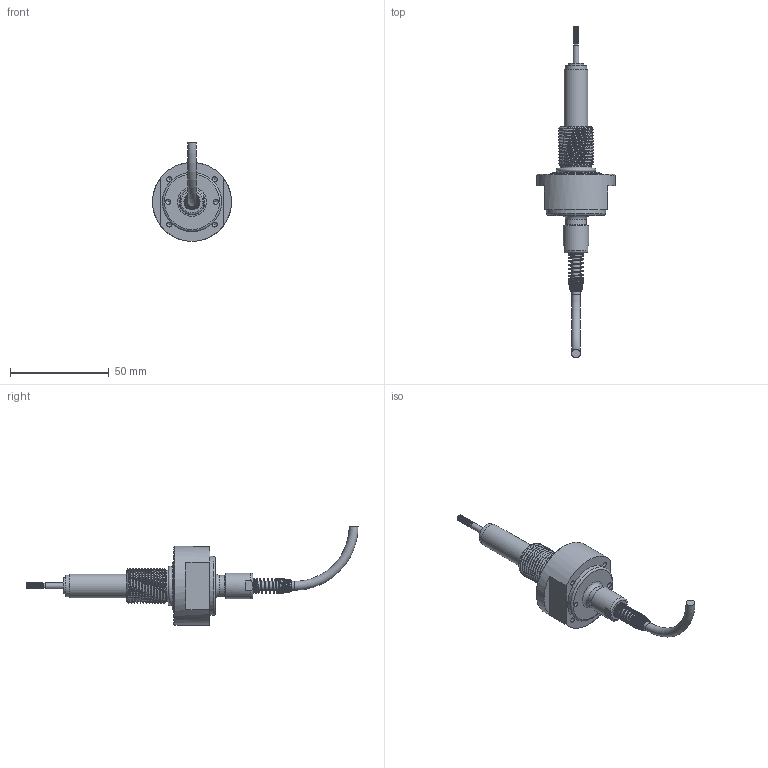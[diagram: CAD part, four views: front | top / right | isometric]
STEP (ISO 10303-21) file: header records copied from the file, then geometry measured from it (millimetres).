
FILE_DESCRIPTION( ( 'STEP AP214' ), '1' );
FILE_NAME( 'N:/Engineering/CAD_Solid/LVDT/HYD/Kunden-3D-Modell/SM5-HYD-18-K.stp', '2011-12-14T13:36:15', ( ' ' ), ( ' ' ), 'XStep 1.0', ' ', ' ' );
FILE_SCHEMA( ( 'CONFIG_CONTROL_DESIGN) ( )' ) );
Length unit declared in the file: metre
Products named in the file (12): 1; 2; 3; 4; 5; 6; 7; 8; 9; 10; 11; 12
Bounding box: 40 x 168.25 x 50 mm (x, y, z)
Volume: 1245.2 mm3; surface area: 14629.5 mm2
Topology: 2 solids, 78 shells, 82 faces, 300 edges, 248 vertices
Faces by surface type: cylinder 24, plane 24, cone 17, bspline 12, torus 5
Full cylindrical faces by diameter (mm): 2.5 x5, 2.6 x2, 3 x1, 4 x1, 4.5 x1, 6 x1, 8 x1, 8.2 x1, 10.6 x1, 10.917 x1, 11 x1, 12 x1, 13 x1, 15.8 x1, 24 x1, 30 x1, 40 x1
Entity records: 18991 total; most frequent: CARTESIAN_POINT 16154, DIRECTION 470, ORIENTED_EDGE 223, AXIS2_PLACEMENT_3D 221, EDGE_CURVE 220, VERTEX_POINT 220, CIRCLE 140, EDGE_LOOP 137
